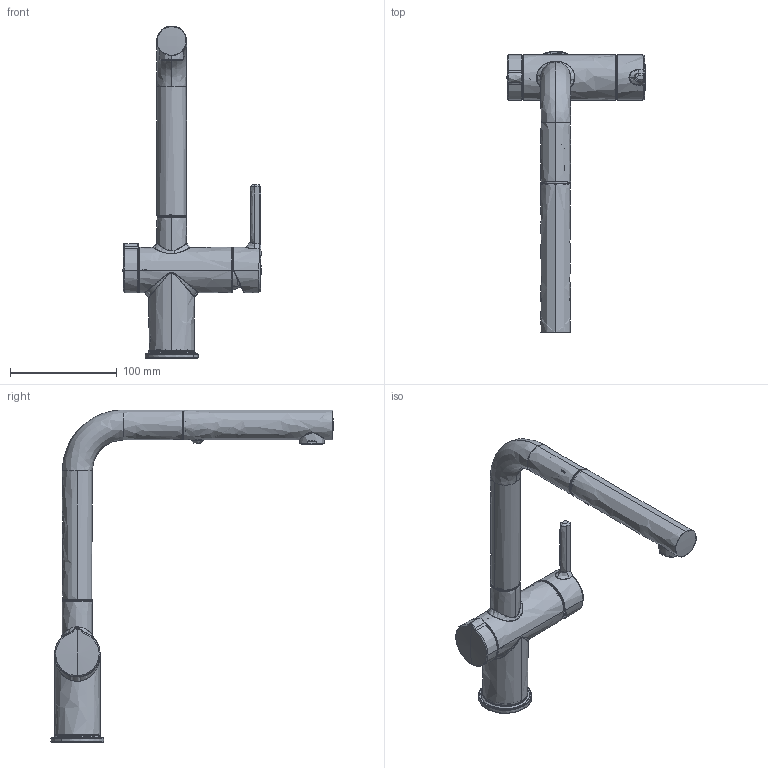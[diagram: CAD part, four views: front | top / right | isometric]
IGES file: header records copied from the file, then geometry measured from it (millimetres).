
Global section: file name: F:\_CONVERSIONE_CAD_2024_2025\_Urgenza Michele\3D001_Taps_Active-Twist_L-Pull-Out_Decor-Steel\3D001_Taps_Active-Twist_L-Pull-Out.igs; native system: Rhinoceros ( Nov 12 2024 ); preprocessor: Trout Lake IGES 012 Nov 12 2024; date: 250224.101504; units: millimetre
Bounding box: 129.56 x 264.65 x 311.5 mm (x, y, z)
Surface area: 144343.1 mm2 (no closed solid volume)
Topology: 0 solids, 0 shells, 3268 faces, 36000 edges, 35972 vertices
Faces by surface type: bspline 3268
